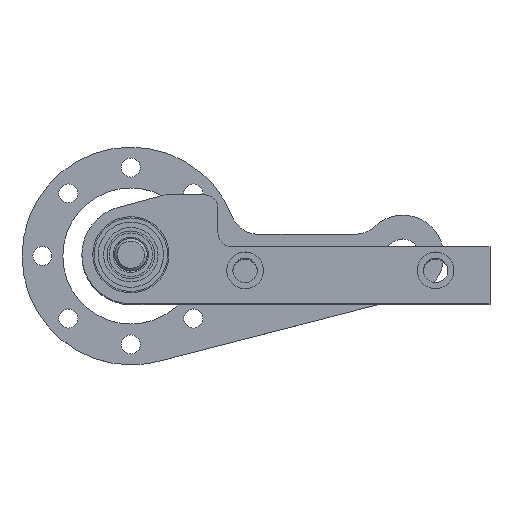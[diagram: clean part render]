
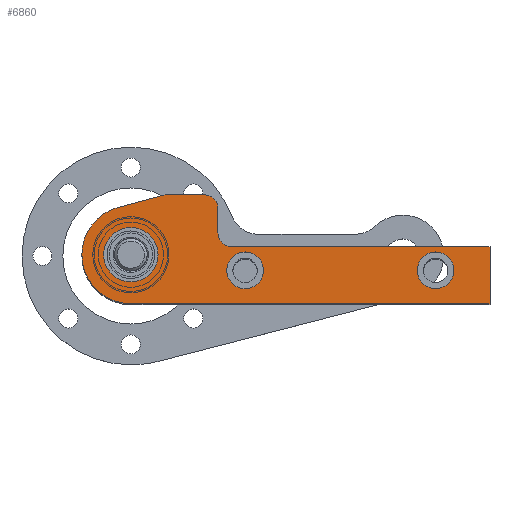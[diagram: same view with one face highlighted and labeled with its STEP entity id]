
A CAD part, top view. The second image highlights one B-rep face of the part: STEP entity #6860.
In plain terms, the highlighted planar face has unit normal (0, 0, 1).
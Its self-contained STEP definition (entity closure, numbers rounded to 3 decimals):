
#67 = CIRCLE ( 'NONE', #5490, 18. ) ;
#90 = EDGE_CURVE ( 'NONE', #1329, #532, #9226, .T. ) ;
#113 = AXIS2_PLACEMENT_3D ( 'NONE', #3519, #4963, #8544 ) ;
#154 = CARTESIAN_POINT ( 'NONE',  ( 0., -18., 4. ) ) ;
#271 = DIRECTION ( 'NONE',  ( 1., 0., 0. ) ) ;
#278 = ORIENTED_EDGE ( 'NONE', *, *, #7532, .F. ) ;
#286 = VERTEX_POINT ( 'NONE', #7729 ) ;
#294 = CARTESIAN_POINT ( 'NONE',  ( 48.75, -5.75, 4. ) ) ;
#481 = EDGE_LOOP ( 'NONE', ( #5854, #7442 ) ) ;
#499 = CARTESIAN_POINT ( 'NONE',  ( 32., 8., 4. ) ) ;
#532 = VERTEX_POINT ( 'NONE', #7490 ) ;
#573 = VERTEX_POINT ( 'NONE', #294 ) ;
#583 = DIRECTION ( 'NONE',  ( 1., 0., 0. ) ) ;
#590 = CARTESIAN_POINT ( 'NONE',  ( 42., -5.75, 4. ) ) ;
#699 = EDGE_CURVE ( 'NONE', #286, #5144, #67, .T. ) ;
#918 = EDGE_LOOP ( 'NONE', ( #3163, #7396 ) ) ;
#949 = DIRECTION ( 'NONE',  ( 1., 0., 0. ) ) ;
#983 = VERTEX_POINT ( 'NONE', #6412 ) ;
#997 = DIRECTION ( 'NONE',  ( 1., 0., 0. ) ) ;
#1016 = CARTESIAN_POINT ( 'NONE',  ( 0., 0., 4. ) ) ;
#1113 = DIRECTION ( 'NONE',  ( -1., 0., 0. ) ) ;
#1126 = DIRECTION ( 'NONE',  ( 0., 1., 0. ) ) ;
#1198 = VECTOR ( 'NONE', #7361, 1000. ) ;
#1218 = ORIENTED_EDGE ( 'NONE', *, *, #5756, .T. ) ;
#1221 = CARTESIAN_POINT ( 'NONE',  ( 112., -5.75, 4. ) ) ;
#1273 = VERTEX_POINT ( 'NONE', #1873 ) ;
#1329 = VERTEX_POINT ( 'NONE', #499 ) ;
#1366 = ORIENTED_EDGE ( 'NONE', *, *, #5997, .T. ) ;
#1370 = EDGE_CURVE ( 'NONE', #1934, #573, #7378, .T. ) ;
#1618 = CARTESIAN_POINT ( 'NONE',  ( 32., 22., 4. ) ) ;
#1691 = DIRECTION ( 'NONE',  ( 1., 0., 0. ) ) ;
#1823 = VERTEX_POINT ( 'NONE', #6101 ) ;
#1857 = CARTESIAN_POINT ( 'NONE',  ( 35.25, -5.75, 4. ) ) ;
#1866 = AXIS2_PLACEMENT_3D ( 'NONE', #4834, #9161, #583 ) ;
#1873 = CARTESIAN_POINT ( 'NONE',  ( 10., 0., 4. ) ) ;
#1879 = CARTESIAN_POINT ( 'NONE',  ( 0., 0., 4. ) ) ;
#1893 = CARTESIAN_POINT ( 'NONE',  ( 32., 3., 4. ) ) ;
#1934 = VERTEX_POINT ( 'NONE', #1857 ) ;
#2156 = LINE ( 'NONE', #2230, #3629 ) ;
#2230 = CARTESIAN_POINT ( 'NONE',  ( 132., 3., 4. ) ) ;
#2307 = AXIS2_PLACEMENT_3D ( 'NONE', #590, #5630, #6369 ) ;
#2337 = ORIENTED_EDGE ( 'NONE', *, *, #6722, .T. ) ;
#2433 = DIRECTION ( 'NONE',  ( 0., 1., 0. ) ) ;
#2485 = DIRECTION ( 'NONE',  ( 0., 0., -1. ) ) ;
#2491 = CARTESIAN_POINT ( 'NONE',  ( 0., 0., 4. ) ) ;
#2544 = CIRCLE ( 'NONE', #113, 6.75 ) ;
#2550 = CARTESIAN_POINT ( 'NONE',  ( 0., 0., 4. ) ) ;
#2576 = EDGE_CURVE ( 'NONE', #573, #1934, #4094, .T. ) ;
#2610 = DIRECTION ( 'NONE',  ( 0., 0., -1. ) ) ;
#2759 = VECTOR ( 'NONE', #1126, 1000. ) ;
#2918 = LINE ( 'NONE', #1618, #7423 ) ;
#3103 = VERTEX_POINT ( 'NONE', #6547 ) ;
#3146 = CIRCLE ( 'NONE', #1866, 18. ) ;
#3163 = ORIENTED_EDGE ( 'NONE', *, *, #9142, .T. ) ;
#3191 = EDGE_CURVE ( 'NONE', #7369, #532, #2156, .T. ) ;
#3304 = EDGE_CURVE ( 'NONE', #1823, #7844, #7462, .T. ) ;
#3420 = EDGE_CURVE ( 'NONE', #1273, #3103, #7572, .T. ) ;
#3519 = CARTESIAN_POINT ( 'NONE',  ( 112., -5.75, 4. ) ) ;
#3590 = EDGE_CURVE ( 'NONE', #3103, #1273, #9252, .T. ) ;
#3617 = DIRECTION ( 'NONE',  ( -1., 0., 0. ) ) ;
#3629 = VECTOR ( 'NONE', #3617, 1000. ) ;
#3991 = CARTESIAN_POINT ( 'NONE',  ( 27., 22., 4. ) ) ;
#4044 = ORIENTED_EDGE ( 'NONE', *, *, #3304, .T. ) ;
#4058 = DIRECTION ( 'NONE',  ( 1., 0., 0. ) ) ;
#4094 = CIRCLE ( 'NONE', #4429, 6.75 ) ;
#4136 = EDGE_CURVE ( 'NONE', #7844, #7369, #5852, .T. ) ;
#4192 = AXIS2_PLACEMENT_3D ( 'NONE', #1016, #2485, #1113 ) ;
#4243 = CARTESIAN_POINT ( 'NONE',  ( 12.558, 22., 4. ) ) ;
#4429 = AXIS2_PLACEMENT_3D ( 'NONE', #6173, #2610, #4776 ) ;
#4550 = CARTESIAN_POINT ( 'NONE',  ( 37., 8., 4. ) ) ;
#4567 = AXIS2_PLACEMENT_3D ( 'NONE', #1221, #7721, #6265 ) ;
#4598 = DIRECTION ( 'NONE',  ( 0., 0., -1. ) ) ;
#4661 = LINE ( 'NONE', #1893, #2759 ) ;
#4687 = CARTESIAN_POINT ( 'NONE',  ( 12.558, 22., 4. ) ) ;
#4776 = DIRECTION ( 'NONE',  ( -1., 0., 0. ) ) ;
#4834 = CARTESIAN_POINT ( 'NONE',  ( 0., 0., 4. ) ) ;
#4950 = VERTEX_POINT ( 'NONE', #6390 ) ;
#4963 = DIRECTION ( 'NONE',  ( 0., 0., -1. ) ) ;
#5025 = FACE_BOUND ( 'NONE', #9093, .T. ) ;
#5071 = VECTOR ( 'NONE', #2433, 1000. ) ;
#5144 = VERTEX_POINT ( 'NONE', #7696 ) ;
#5248 = FACE_BOUND ( 'NONE', #481, .T. ) ;
#5306 = VECTOR ( 'NONE', #1691, 1000. ) ;
#5313 = CARTESIAN_POINT ( 'NONE',  ( 27., 17., 4. ) ) ;
#5487 = DIRECTION ( 'NONE',  ( 0., 0., 1. ) ) ;
#5490 = AXIS2_PLACEMENT_3D ( 'NONE', #2550, #5487, #4058 ) ;
#5517 = CARTESIAN_POINT ( 'NONE',  ( 132., -18., 4. ) ) ;
#5630 = DIRECTION ( 'NONE',  ( 0., 0., -1. ) ) ;
#5756 = EDGE_CURVE ( 'NONE', #6694, #7901, #2918, .T. ) ;
#5852 = LINE ( 'NONE', #6015, #5071 ) ;
#5854 = ORIENTED_EDGE ( 'NONE', *, *, #1370, .T. ) ;
#5997 = EDGE_CURVE ( 'NONE', #5144, #1823, #3146, .T. ) ;
#5998 = ORIENTED_EDGE ( 'NONE', *, *, #3191, .T. ) ;
#6015 = CARTESIAN_POINT ( 'NONE',  ( 132., -18., 4. ) ) ;
#6054 = VERTEX_POINT ( 'NONE', #7093 ) ;
#6094 = PLANE ( 'NONE',  #7248 ) ;
#6101 = CARTESIAN_POINT ( 'NONE',  ( 0., -18., 4. ) ) ;
#6173 = CARTESIAN_POINT ( 'NONE',  ( 42., -5.75, 4. ) ) ;
#6265 = DIRECTION ( 'NONE',  ( -1., 0., 0. ) ) ;
#6369 = DIRECTION ( 'NONE',  ( -1., 0., 0. ) ) ;
#6390 = CARTESIAN_POINT ( 'NONE',  ( 32., 17., 4. ) ) ;
#6412 = CARTESIAN_POINT ( 'NONE',  ( 105.25, -5.75, 4. ) ) ;
#6547 = CARTESIAN_POINT ( 'NONE',  ( -10., 0., 4. ) ) ;
#6694 = VERTEX_POINT ( 'NONE', #3991 ) ;
#6722 = EDGE_CURVE ( 'NONE', #7901, #286, #6958, .T. ) ;
#6779 = DIRECTION ( 'NONE',  ( -1., 0., 0. ) ) ;
#6844 = ORIENTED_EDGE ( 'NONE', *, *, #3420, .T. ) ;
#6860 = ADVANCED_FACE ( 'NONE', ( #5025, #5248, #7172, #8631 ), #6094, .F. ) ;
#6920 = DIRECTION ( 'NONE',  ( 0., 0., -1. ) ) ;
#6937 = CIRCLE ( 'NONE', #8982, 5. ) ;
#6958 = LINE ( 'NONE', #4687, #1198 ) ;
#6989 = EDGE_LOOP ( 'NONE', ( #1218, #2337, #7428, #1366, #4044, #8452, #5998, #8051, #7074, #278 ) ) ;
#7074 = ORIENTED_EDGE ( 'NONE', *, *, #9083, .T. ) ;
#7091 = AXIS2_PLACEMENT_3D ( 'NONE', #1879, #6920, #7675 ) ;
#7093 = CARTESIAN_POINT ( 'NONE',  ( 118.75, -5.75, 4. ) ) ;
#7172 = FACE_BOUND ( 'NONE', #918, .T. ) ;
#7219 = CARTESIAN_POINT ( 'NONE',  ( 132., 3., 4. ) ) ;
#7248 = AXIS2_PLACEMENT_3D ( 'NONE', #2491, #4598, #271 ) ;
#7361 = DIRECTION ( 'NONE',  ( -0.966, -0.259, 0. ) ) ;
#7369 = VERTEX_POINT ( 'NONE', #7219 ) ;
#7378 = CIRCLE ( 'NONE', #2307, 6.75 ) ;
#7396 = ORIENTED_EDGE ( 'NONE', *, *, #7918, .T. ) ;
#7423 = VECTOR ( 'NONE', #6779, 1000. ) ;
#7428 = ORIENTED_EDGE ( 'NONE', *, *, #699, .T. ) ;
#7442 = ORIENTED_EDGE ( 'NONE', *, *, #2576, .T. ) ;
#7462 = LINE ( 'NONE', #154, #5306 ) ;
#7472 = ORIENTED_EDGE ( 'NONE', *, *, #3590, .T. ) ;
#7490 = CARTESIAN_POINT ( 'NONE',  ( 37., 3., 4. ) ) ;
#7532 = EDGE_CURVE ( 'NONE', #6694, #4950, #6937, .T. ) ;
#7572 = CIRCLE ( 'NONE', #4192, 10. ) ;
#7675 = DIRECTION ( 'NONE',  ( -1., 0., 0. ) ) ;
#7696 = CARTESIAN_POINT ( 'NONE',  ( -18., 0., 4. ) ) ;
#7721 = DIRECTION ( 'NONE',  ( 0., 0., -1. ) ) ;
#7729 = CARTESIAN_POINT ( 'NONE',  ( -4.659, 17.387, 4. ) ) ;
#7844 = VERTEX_POINT ( 'NONE', #5517 ) ;
#7901 = VERTEX_POINT ( 'NONE', #4243 ) ;
#7918 = EDGE_CURVE ( 'NONE', #6054, #983, #2544, .T. ) ;
#8051 = ORIENTED_EDGE ( 'NONE', *, *, #90, .F. ) ;
#8204 = DIRECTION ( 'NONE',  ( 0., 0., -1. ) ) ;
#8246 = CIRCLE ( 'NONE', #4567, 6.75 ) ;
#8452 = ORIENTED_EDGE ( 'NONE', *, *, #4136, .T. ) ;
#8544 = DIRECTION ( 'NONE',  ( -1., 0., 0. ) ) ;
#8631 = FACE_OUTER_BOUND ( 'NONE', #6989, .T. ) ;
#8893 = DIRECTION ( 'NONE',  ( 0., 0., 1. ) ) ;
#8982 = AXIS2_PLACEMENT_3D ( 'NONE', #5313, #8204, #997 ) ;
#9083 = EDGE_CURVE ( 'NONE', #1329, #4950, #4661, .T. ) ;
#9093 = EDGE_LOOP ( 'NONE', ( #7472, #6844 ) ) ;
#9142 = EDGE_CURVE ( 'NONE', #983, #6054, #8246, .T. ) ;
#9161 = DIRECTION ( 'NONE',  ( 0., 0., 1. ) ) ;
#9226 = CIRCLE ( 'NONE', #9289, 5. ) ;
#9252 = CIRCLE ( 'NONE', #7091, 10. ) ;
#9289 = AXIS2_PLACEMENT_3D ( 'NONE', #4550, #8893, #949 ) ;
